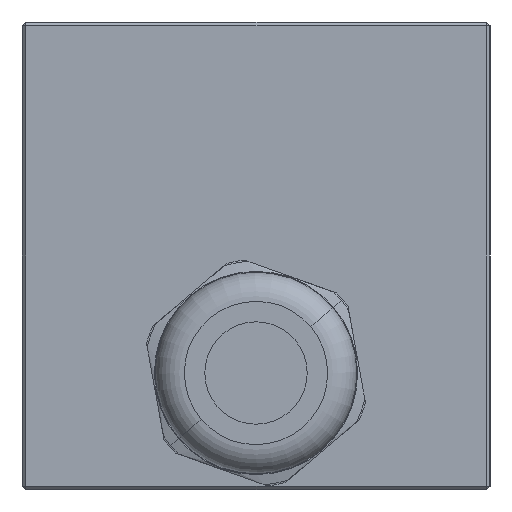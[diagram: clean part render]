
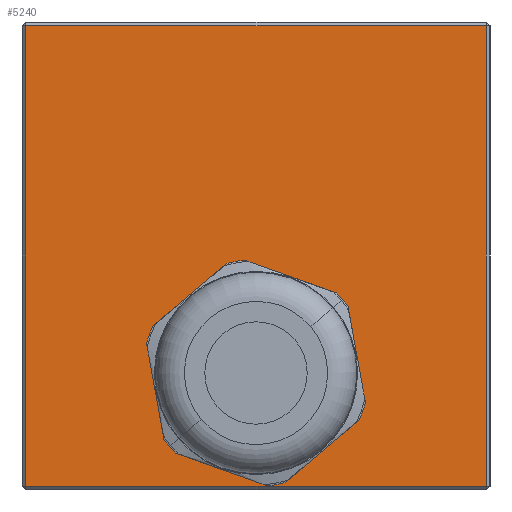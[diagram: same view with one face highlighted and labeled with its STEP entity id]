
A CAD part, left-side view. The second image highlights one B-rep face of the part: STEP entity #5240.
In plain terms, the highlighted planar face has unit normal (-1, 0, 0).
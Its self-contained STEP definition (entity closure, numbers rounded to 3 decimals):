
#27 = VERTEX_POINT ( 'NONE', #4545 ) ;
#146 = CARTESIAN_POINT ( 'NONE',  ( 0., 14.006, -15.489 ) ) ;
#235 = PLANE ( 'NONE',  #5491 ) ;
#255 = DIRECTION ( 'NONE',  ( 0., 0.762, -0.647 ) ) ;
#271 = LINE ( 'NONE', #3820, #4794 ) ;
#274 = CARTESIAN_POINT ( 'NONE',  ( 0., 9.709, -3.473 ) ) ;
#304 = VECTOR ( 'NONE', #3466, 1000. ) ;
#324 = VECTOR ( 'NONE', #5088, 1000. ) ;
#366 = EDGE_CURVE ( 'NONE', #828, #623, #4588, .T. ) ;
#402 = AXIS2_PLACEMENT_3D ( 'NONE', #3732, #3752, #1559 ) ;
#447 = VERTEX_POINT ( 'NONE', #3834 ) ;
#570 = EDGE_CURVE ( 'NONE', #4706, #4729, #2161, .T. ) ;
#597 = VERTEX_POINT ( 'NONE', #2268 ) ;
#623 = VERTEX_POINT ( 'NONE', #4445 ) ;
#651 = EDGE_CURVE ( 'NONE', #447, #4706, #2294, .T. ) ;
#683 = CARTESIAN_POINT ( 'NONE',  ( 0., 0.25, 15.75 ) ) ;
#772 = DIRECTION ( 'NONE',  ( 0., 1., 0. ) ) ;
#798 = CARTESIAN_POINT ( 'NONE',  ( 0., 22.163, -13.23 ) ) ;
#828 = VERTEX_POINT ( 'NONE', #146 ) ;
#854 = DIRECTION ( 'NONE',  ( 0., 0.762, -0.647 ) ) ;
#867 = ORIENTED_EDGE ( 'NONE', *, *, #2767, .T. ) ;
#868 = CIRCLE ( 'NONE', #1952, 7.75 ) ;
#892 = EDGE_LOOP ( 'NONE', ( #1282, #3528, #3374, #867 ) ) ;
#912 = ORIENTED_EDGE ( 'NONE', *, *, #2728, .T. ) ;
#918 = CARTESIAN_POINT ( 'NONE',  ( 0., 16.775, -0.289 ) ) ;
#1019 = VERTEX_POINT ( 'NONE', #2317 ) ;
#1048 = ORIENTED_EDGE ( 'NONE', *, *, #1362, .T. ) ;
#1089 = EDGE_LOOP ( 'NONE', ( #5362, #2232, #4483, #5393, #4942, #1048, #4044, #2965, #5345, #1275, #912, #3727, #3430 ) ) ;
#1136 = CARTESIAN_POINT ( 'NONE',  ( 0., 16., -8. ) ) ;
#1155 = AXIS2_PLACEMENT_3D ( 'NONE', #2599, #4288, #4317 ) ;
#1162 = VERTEX_POINT ( 'NONE', #918 ) ;
#1179 = DIRECTION ( 'NONE',  ( 1., 0., 0. ) ) ;
#1275 = ORIENTED_EDGE ( 'NONE', *, *, #1446, .T. ) ;
#1282 = ORIENTED_EDGE ( 'NONE', *, *, #651, .T. ) ;
#1298 = CARTESIAN_POINT ( 'NONE',  ( 0., 16., -8. ) ) ;
#1331 = EDGE_CURVE ( 'NONE', #5361, #1019, #2916, .T. ) ;
#1360 = CARTESIAN_POINT ( 'NONE',  ( 0., 10.091, -2.985 ) ) ;
#1362 = EDGE_CURVE ( 'NONE', #27, #828, #5065, .T. ) ;
#1426 = VECTOR ( 'NONE', #1764, 1000. ) ;
#1446 = EDGE_CURVE ( 'NONE', #2764, #597, #5156, .T. ) ;
#1450 = DIRECTION ( 'NONE',  ( 0., -1., 0. ) ) ;
#1487 = FACE_OUTER_BOUND ( 'NONE', #892, .T. ) ;
#1528 = VECTOR ( 'NONE', #1450, 1000. ) ;
#1551 = CARTESIAN_POINT ( 'NONE',  ( 0., 17.448, -0.048 ) ) ;
#1559 = DIRECTION ( 'NONE',  ( 0., 0.762, -0.647 ) ) ;
#1582 = VERTEX_POINT ( 'NONE', #1360 ) ;
#1599 = EDGE_CURVE ( 'NONE', #4334, #1582, #868, .T. ) ;
#1609 = AXIS2_PLACEMENT_3D ( 'NONE', #3718, #1179, #3396 ) ;
#1678 = EDGE_CURVE ( 'NONE', #1162, #4334, #5327, .T. ) ;
#1708 = LINE ( 'NONE', #3833, #304 ) ;
#1764 = DIRECTION ( 'NONE',  ( 0., 0., 1. ) ) ;
#1813 = CARTESIAN_POINT ( 'NONE',  ( 0., 16., -8. ) ) ;
#1826 = CARTESIAN_POINT ( 'NONE',  ( 0., 8.517, -10.018 ) ) ;
#1912 = CARTESIAN_POINT ( 'NONE',  ( 0., 16., -8. ) ) ;
#1952 = AXIS2_PLACEMENT_3D ( 'NONE', #1813, #5185, #5294 ) ;
#2039 = DIRECTION ( 'NONE',  ( 0., 0.179, 0.984 ) ) ;
#2083 = VERTEX_POINT ( 'NONE', #2520 ) ;
#2161 = LINE ( 'NONE', #3091, #1426 ) ;
#2232 = ORIENTED_EDGE ( 'NONE', *, *, #1599, .T. ) ;
#2239 = AXIS2_PLACEMENT_3D ( 'NONE', #1298, #4738, #854 ) ;
#2268 = CARTESIAN_POINT ( 'NONE',  ( 0., 23.483, -5.982 ) ) ;
#2294 = LINE ( 'NONE', #5356, #1528 ) ;
#2317 = CARTESIAN_POINT ( 'NONE',  ( 0., 17.994, -0.511 ) ) ;
#2321 = CARTESIAN_POINT ( 'NONE',  ( 0., 10.511, -2.529 ) ) ;
#2333 = VECTOR ( 'NONE', #772, 1000. ) ;
#2445 = DIRECTION ( 'NONE',  ( 0., 0.762, -0.647 ) ) ;
#2520 = CARTESIAN_POINT ( 'NONE',  ( 0., 31.75, 15.75 ) ) ;
#2561 = CARTESIAN_POINT ( 'NONE',  ( 0., 21.489, -13.471 ) ) ;
#2571 = EDGE_CURVE ( 'NONE', #5171, #27, #2899, .T. ) ;
#2599 = CARTESIAN_POINT ( 'NONE',  ( 0., 16., -8. ) ) ;
#2708 = LINE ( 'NONE', #3123, #3417 ) ;
#2728 = EDGE_CURVE ( 'NONE', #597, #5361, #4615, .T. ) ;
#2764 = VERTEX_POINT ( 'NONE', #5015 ) ;
#2767 = EDGE_CURVE ( 'NONE', #2083, #447, #271, .T. ) ;
#2887 = DIRECTION ( 'NONE',  ( 1., 0., 0. ) ) ;
#2899 = CIRCLE ( 'NONE', #1155, 7.75 ) ;
#2916 = LINE ( 'NONE', #5450, #4766 ) ;
#2929 = CARTESIAN_POINT ( 'NONE',  ( 0., 0.25, -15.75 ) ) ;
#2965 = ORIENTED_EDGE ( 'NONE', *, *, #4347, .T. ) ;
#3091 = CARTESIAN_POINT ( 'NONE',  ( 0., 0.25, 16. ) ) ;
#3123 = CARTESIAN_POINT ( 'NONE',  ( 0., 9.837, -2.77 ) ) ;
#3170 = VERTEX_POINT ( 'NONE', #274 ) ;
#3272 = DIRECTION ( 'NONE',  ( 0., -0.762, 0.647 ) ) ;
#3374 = ORIENTED_EDGE ( 'NONE', *, *, #4707, .T. ) ;
#3396 = DIRECTION ( 'NONE',  ( 0., 0.762, -0.647 ) ) ;
#3417 = VECTOR ( 'NONE', #5170, 1000. ) ;
#3430 = ORIENTED_EDGE ( 'NONE', *, *, #4480, .T. ) ;
#3466 = DIRECTION ( 'NONE',  ( 0., 0.942, 0.337 ) ) ;
#3528 = ORIENTED_EDGE ( 'NONE', *, *, #570, .T. ) ;
#3564 = AXIS2_PLACEMENT_3D ( 'NONE', #1136, #2887, #2445 ) ;
#3652 = CARTESIAN_POINT ( 'NONE',  ( 0., 0., 16. ) ) ;
#3718 = CARTESIAN_POINT ( 'NONE',  ( 0., 16., -8. ) ) ;
#3727 = ORIENTED_EDGE ( 'NONE', *, *, #1331, .T. ) ;
#3732 = CARTESIAN_POINT ( 'NONE',  ( 0., 16., -8. ) ) ;
#3752 = DIRECTION ( 'NONE',  ( 1., 0., 0. ) ) ;
#3790 = CARTESIAN_POINT ( 'NONE',  ( 0., 8.389, -10.722 ) ) ;
#3820 = CARTESIAN_POINT ( 'NONE',  ( 0., 31.75, 16. ) ) ;
#3833 = CARTESIAN_POINT ( 'NONE',  ( 0., 14.552, -15.952 ) ) ;
#3834 = CARTESIAN_POINT ( 'NONE',  ( 0., 31.75, -15.75 ) ) ;
#3852 = VECTOR ( 'NONE', #2039, 1000. ) ;
#4044 = ORIENTED_EDGE ( 'NONE', *, *, #366, .T. ) ;
#4160 = FACE_BOUND ( 'NONE', #1089, .T. ) ;
#4161 = VERTEX_POINT ( 'NONE', #2561 ) ;
#4195 = LINE ( 'NONE', #5468, #2333 ) ;
#4224 = AXIS2_PLACEMENT_3D ( 'NONE', #1912, #4576, #255 ) ;
#4239 = CARTESIAN_POINT ( 'NONE',  ( 0., 23.065, -4.815 ) ) ;
#4288 = DIRECTION ( 'NONE',  ( 1., 0., 0. ) ) ;
#4317 = DIRECTION ( 'NONE',  ( 0., 0.762, -0.647 ) ) ;
#4334 = VERTEX_POINT ( 'NONE', #2321 ) ;
#4347 = EDGE_CURVE ( 'NONE', #623, #4161, #1708, .T. ) ;
#4445 = CARTESIAN_POINT ( 'NONE',  ( 0., 15.225, -15.711 ) ) ;
#4480 = EDGE_CURVE ( 'NONE', #1019, #1162, #4937, .T. ) ;
#4483 = ORIENTED_EDGE ( 'NONE', *, *, #4489, .T. ) ;
#4489 = EDGE_CURVE ( 'NONE', #1582, #3170, #5381, .T. ) ;
#4545 = CARTESIAN_POINT ( 'NONE',  ( 0., 8.935, -11.185 ) ) ;
#4576 = DIRECTION ( 'NONE',  ( 1., 0., 0. ) ) ;
#4588 = CIRCLE ( 'NONE', #4224, 7.75 ) ;
#4615 = CIRCLE ( 'NONE', #1609, 7.75 ) ;
#4706 = VERTEX_POINT ( 'NONE', #2929 ) ;
#4707 = EDGE_CURVE ( 'NONE', #4729, #2083, #4195, .T. ) ;
#4729 = VERTEX_POINT ( 'NONE', #683 ) ;
#4738 = DIRECTION ( 'NONE',  ( 1., 0., 0. ) ) ;
#4766 = VECTOR ( 'NONE', #3272, 1000. ) ;
#4794 = VECTOR ( 'NONE', #5553, 1000. ) ;
#4809 = EDGE_CURVE ( 'NONE', #4161, #2764, #5221, .T. ) ;
#4851 = VECTOR ( 'NONE', #5387, 1000. ) ;
#4937 = CIRCLE ( 'NONE', #402, 7.75 ) ;
#4942 = ORIENTED_EDGE ( 'NONE', *, *, #2571, .T. ) ;
#5015 = CARTESIAN_POINT ( 'NONE',  ( 0., 22.291, -12.527 ) ) ;
#5033 = DIRECTION ( 'NONE',  ( 1., 0., 0. ) ) ;
#5065 = LINE ( 'NONE', #3790, #324 ) ;
#5088 = DIRECTION ( 'NONE',  ( 0., 0.762, -0.647 ) ) ;
#5156 = LINE ( 'NONE', #798, #3852 ) ;
#5170 = DIRECTION ( 'NONE',  ( 0., -0.179, -0.984 ) ) ;
#5171 = VERTEX_POINT ( 'NONE', #1826 ) ;
#5185 = DIRECTION ( 'NONE',  ( 1., 0., 0. ) ) ;
#5221 = CIRCLE ( 'NONE', #2239, 7.75 ) ;
#5240 = ADVANCED_FACE ( 'NONE', ( #1487, #4160 ), #235, .F. ) ;
#5294 = DIRECTION ( 'NONE',  ( 0., 0.762, -0.647 ) ) ;
#5322 = EDGE_CURVE ( 'NONE', #3170, #5171, #2708, .T. ) ;
#5327 = LINE ( 'NONE', #1551, #4851 ) ;
#5345 = ORIENTED_EDGE ( 'NONE', *, *, #4809, .T. ) ;
#5356 = CARTESIAN_POINT ( 'NONE',  ( 0., 0., -15.75 ) ) ;
#5361 = VERTEX_POINT ( 'NONE', #4239 ) ;
#5362 = ORIENTED_EDGE ( 'NONE', *, *, #1678, .T. ) ;
#5370 = DIRECTION ( 'NONE',  ( 0., 0., -1. ) ) ;
#5381 = CIRCLE ( 'NONE', #3564, 7.75 ) ;
#5387 = DIRECTION ( 'NONE',  ( 0., -0.942, -0.337 ) ) ;
#5393 = ORIENTED_EDGE ( 'NONE', *, *, #5322, .T. ) ;
#5450 = CARTESIAN_POINT ( 'NONE',  ( 0., 23.611, -5.278 ) ) ;
#5468 = CARTESIAN_POINT ( 'NONE',  ( 0., 0., 15.75 ) ) ;
#5491 = AXIS2_PLACEMENT_3D ( 'NONE', #3652, #5033, #5370 ) ;
#5553 = DIRECTION ( 'NONE',  ( 0., 0., -1. ) ) ;
